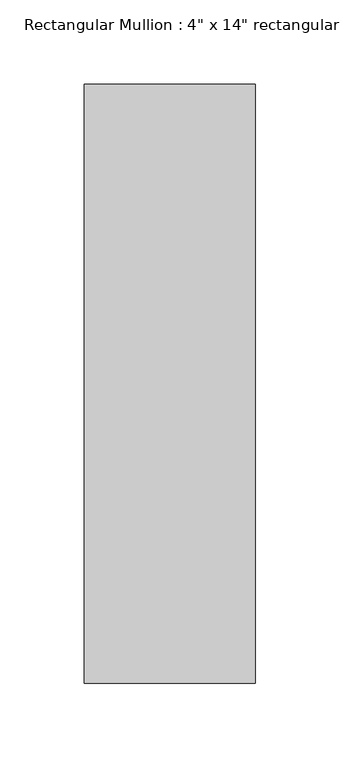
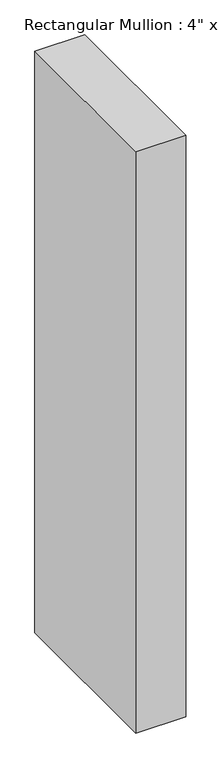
"""IFC4 building model written with IfcOpenShell, lengths in millimetres: member geometry."""

from ifc_helpers import new_model, si_unit, frame, origin, place, context, project, spatial, polyline, outline, extrude, source, transform, mapped, element, save


def member_f8741a6d(model_context):
    return source(origin(), model_context, "Body", "SweptSolid", [
        extrude(outline(polyline([(50.8, 12.7), (50.8, -342.9), (-50.8, -342.9), (-50.8, 12.7), (50.8, 12.7)])), frame((0.0, 0.0, -1250.95), z_axis=(0.0, 0.0, 1.0), x_axis=(1.0, 0.0, 0.0)), (0.0, 0.0, 1.0), 1250.95),
    ])


if __name__ == "__main__":
    model = new_model("IFC4")
    model_context = context("Model", 3, world=origin())
    ifc_project = project(units=[si_unit("LENGTHUNIT", "METRE", prefix="MILLI")], contexts=[model_context])
    site = spatial("IfcSite", under=ifc_project)
    building = spatial("IfcBuilding", under=site)
    placement = place(None, origin())
    member_shape = member_f8741a6d(model_context)
    element("IfcMember", 1, ObjectType="Rectangular Mullion : 4\" x 14\" rectangular", at=placement, inside=building, context=model_context, shape_type="MappedRepresentation", body=[
        mapped(member_shape, transform((0.0, 0.0, 0.0), x_axis=(1.0, 0.0, 0.0), y_axis=(0.0, 1.0, 0.0), z_axis=(0.0, 0.0, 1.0))),
    ])
    save(model, "model.ifc")
